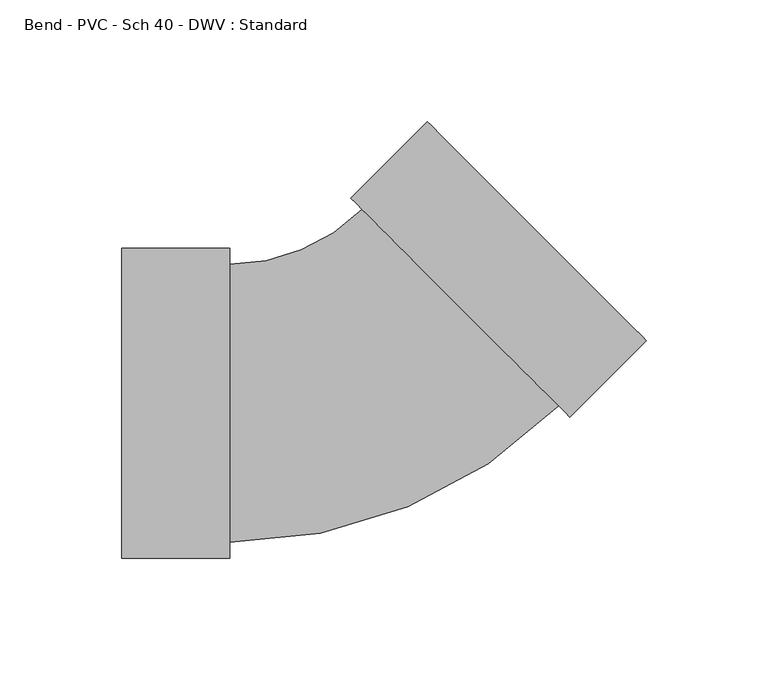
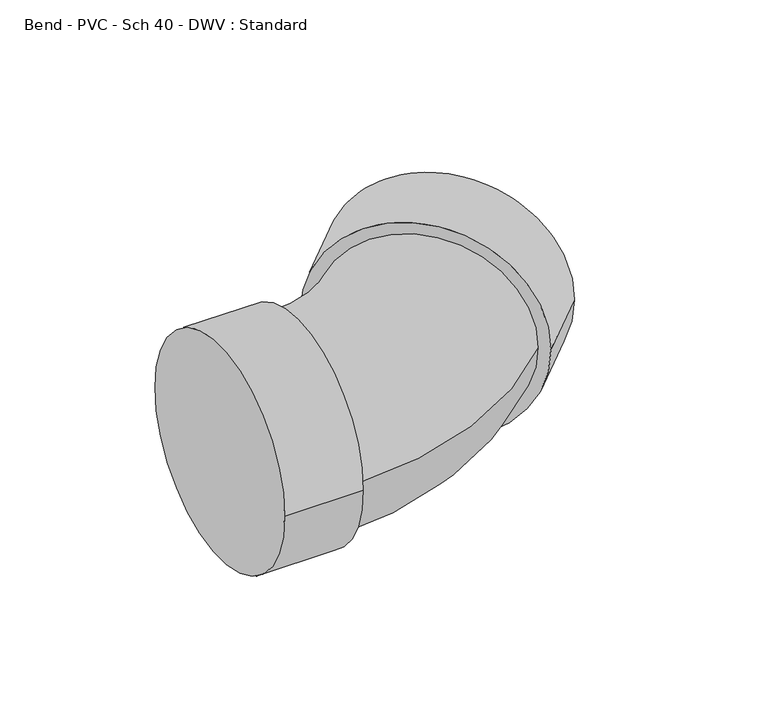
"""IFC4 building model written with IfcOpenShell, lengths in millimetres: pipe fitting geometry, Bend - PVC - Sch 40 - DWV : Standard."""

from ifc_helpers import new_model, si_unit, point, frame, origin, place, context, project, spatial, circle_curve, ellipse_curve, trimmed, source, transform, mapped, element, save
from ifc_brep_helpers import plane_surface, cylinder_surface, revolved_surface, advanced_brep


def bend_pvc_sch_40_dwv_standard_c0595f50(model_context):
    return source(origin(), model_context, "Body", "AdvancedBrep", [
        advanced_brep(
        [(-100.0252, -63.754, 0.0), (-100.0252, 63.754, 0.0), (-55.5752, -63.754, 0.0), (-55.5752, 63.754, 0.0), (-55.5752, -57.15, 0.0), (-55.5752, 57.15, 0.0), (-1.1127321, 79.7087648, 0.0), (79.7087419, -1.1143715, 0.0), (84.378427, -5.7841527, 0.0), (-5.7824172, 84.378546, 0.0), (115.8096467, 25.6464205, 0.0), (25.6488024, 115.8091192, 0.0)],
        [
            (0, 1, circle_curve(frame((-100.0252, 0.0, 0.0), z_axis=(-1.0, 0.0, 0.0), x_axis=(0.0, 1.0, 0.0)), 63.754)),
            (1, 0, circle_curve(frame((-100.0252, 0.0, 0.0), z_axis=(-1.0, 0.0, 0.0), x_axis=(0.0, 1.0, 0.0)), 63.754)),
            (2, 3, circle_curve(frame((-55.5752, 0.0, 0.0), z_axis=(1.0, 0.0, 0.0), x_axis=(0.0, 1.0, 0.0)), 63.754)),
            (3, 2, circle_curve(frame((-55.5752, 0.0, 0.0), z_axis=(1.0, 0.0, 0.0), x_axis=(0.0, 1.0, 0.0)), 63.754)),
            (4, 5, circle_curve(frame((-55.5752, 0.0, 0.0), z_axis=(-1.0, 0.0, 0.0), x_axis=(0.0, 1.0, 0.0)), 57.15)),
            (5, 4, circle_curve(frame((-55.5752, 0.0, 0.0), z_axis=(-1.0, 0.0, 0.0), x_axis=(0.0, 1.0, 0.0)), 57.15)),
            (0, 2),
            (3, 1),
            (6, 5, circle_curve(frame((-55.5752, 134.1723529, 0.0), z_axis=(0.0, 0.0, -1.0), x_axis=(0.0, -1.0, 0.0)), 77.0223529)),
            (4, 7, circle_curve(frame((-55.5752, 134.1723529, 0.0), z_axis=(0.0, 0.0, 1.0), x_axis=(0.0, -1.0, 0.0)), 191.3223529)),
            (7, 6, circle_curve(frame((39.2980049, 39.2971967, 0.0), z_axis=(-0.7071140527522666, -0.7070995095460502, 0.0), x_axis=(-0.7070995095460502, 0.7071140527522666, 0.0)), 57.15)),
            (6, 7, circle_curve(frame((39.2980049, 39.2971967, 0.0), z_axis=(-0.7071140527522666, -0.7070995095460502, 0.0), x_axis=(-0.7070995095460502, 0.7071140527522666, 0.0)), 57.15)),
            (8, 9, circle_curve(frame((39.2980049, 39.2971967, 0.0), z_axis=(-0.7071140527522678, -0.707099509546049, 0.0), x_axis=(-0.707099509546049, 0.7071140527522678, 0.0)), 63.754)),
            (9, 8, circle_curve(frame((39.2980049, 39.2971967, 0.0), z_axis=(-0.7071140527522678, -0.707099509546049, 0.0), x_axis=(-0.707099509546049, 0.7071140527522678, 0.0)), 63.754)),
            (10, 11, circle_curve(frame((70.7292245, 70.7277699, 0.0), z_axis=(0.7071140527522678, 0.707099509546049, 0.0), x_axis=(-0.707099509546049, 0.7071140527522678, 0.0)), 63.754)),
            (11, 10, circle_curve(frame((70.7292245, 70.7277699, 0.0), z_axis=(0.7071140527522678, 0.707099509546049, 0.0), x_axis=(-0.707099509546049, 0.7071140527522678, 0.0)), 63.754)),
            (8, 10),
            (11, 9),
        ],
        [
            plane_surface(frame((-100.0252, 0.0, 0.0), z_axis=(-1.0, 0.0, 0.0), x_axis=(0.0, 0.0, 1.0))),
            plane_surface(frame((-55.5752, 0.0, 0.0), z_axis=(1.0, 0.0, 0.0), x_axis=(0.0, 0.0, 1.0))),
            cylinder_surface(frame((-100.0252, 0.0, 0.0), z_axis=(-1.0, 0.0, 0.0), x_axis=(0.0, 1.0, 0.0)), 63.754),
            revolved_surface(trimmed(ellipse_curve(frame((-55.5752, 0.0, 0.0), z_axis=(-1.0, 0.0, 0.0), x_axis=(0.0, 1.0, 0.0)), 57.15, 57.15), [point((-55.5752, -57.15, 0.0))], [point((-55.5752, 57.15, 0.0))], True, "CARTESIAN"), (-55.5752, 134.1723529, 0.0), (0.0, 0.0, 1.0)),
            revolved_surface(trimmed(ellipse_curve(frame((-55.5752, 0.0, 0.0), z_axis=(-1.0, 0.0, 0.0), x_axis=(0.0, 1.0, 0.0)), 57.15, 57.15), [point((-55.5752, 57.15, 0.0))], [point((-55.5752, -57.15, 0.0))], True, "CARTESIAN"), (-55.5752, 134.1723529, 0.0), (0.0, 0.0, 1.0)),
            plane_surface(frame((39.2980049, 39.2971967, 0.0), z_axis=(-0.7071140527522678, -0.707099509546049, 0.0), x_axis=(0.0, 0.0, 1.0))),
            plane_surface(frame((70.7292245, 70.7277699, 0.0), z_axis=(0.7071140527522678, 0.707099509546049, 0.0), x_axis=(0.0, 0.0, 1.0))),
            cylinder_surface(frame((39.2980049, 39.2971967, 0.0), z_axis=(-0.7071140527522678, -0.707099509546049, 0.0), x_axis=(-0.707099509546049, 0.7071140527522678, 0.0)), 63.754),
        ],
        [
            (0, [[1, 2]]),
            (1, [[3, 4], [5, 6]]),
            (2, [[-1, 7, -4, 8]]),
            (2, [[-2, -8, -3, -7]]),
            (3, [[9, -5, 10, 11]]),
            (4, [[-9, 12, -10, -6]]),
            (5, [[13, 14], [-11, -12]]),
            (6, [[15, 16]]),
            (7, [[-13, 17, -16, 18]]),
            (7, [[-14, -18, -15, -17]]),
        ],
    ),
    ])


if __name__ == "__main__":
    model = new_model("IFC4")
    model_context = context("Model", 3, world=origin())
    ifc_project = project(units=[si_unit("LENGTHUNIT", "METRE", prefix="MILLI")], contexts=[model_context])
    site = spatial("IfcSite", under=ifc_project)
    building = spatial("IfcBuilding", under=site)
    placement = place(None, origin())
    bend_pvc_sch_40_dwv_standard_shape = bend_pvc_sch_40_dwv_standard_c0595f50(model_context)
    element("IfcPipeFitting", 1, ObjectType="Bend - PVC - Sch 40 - DWV : Standard", at=placement, inside=building, context=model_context, shape_type="MappedRepresentation", body=[
        mapped(bend_pvc_sch_40_dwv_standard_shape, transform((0.0, 0.0, 0.0), x_axis=(1.0, 0.0, 0.0), y_axis=(0.0, 1.0, 0.0), z_axis=(0.0, 0.0, 1.0))),
    ])
    save(model, "model.ifc")
